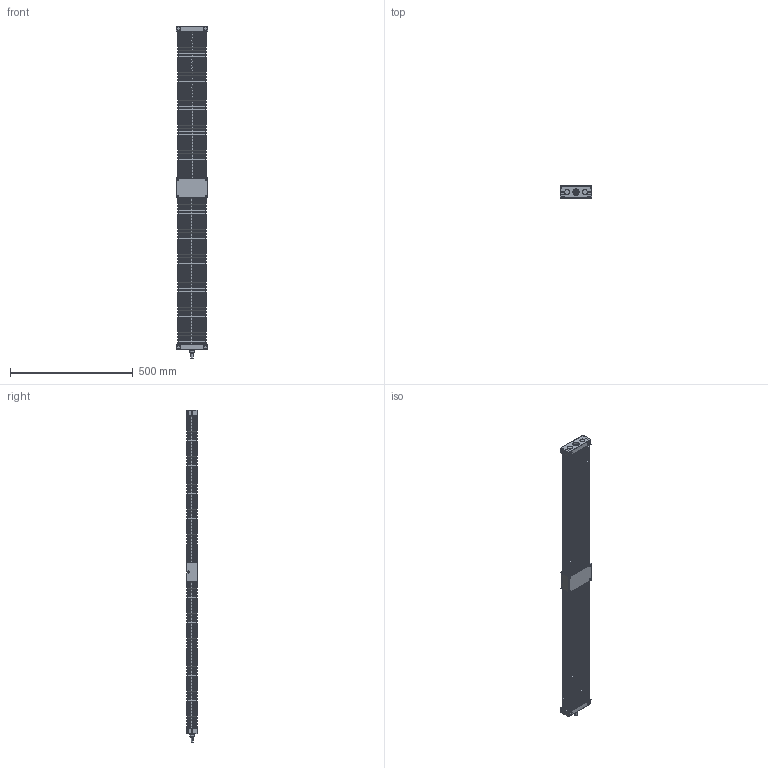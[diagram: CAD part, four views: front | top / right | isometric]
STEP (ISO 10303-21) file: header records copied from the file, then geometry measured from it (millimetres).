
FILE_DESCRIPTION (( 'STEP AP214' ), '1' );
FILE_NAME ('TKC2010B-800H0C-Ä£×é.step', '2025-08-25T08:40:32', ( '' ), ( '' ), 'SwSTEP 2.0', 'SolidWorks 2024', '' );
FILE_SCHEMA (( 'AUTOMOTIVE_DESIGN' ));
Length unit declared in the file: millimetre
Products named in the file (4): TKC2010B-800H0C-模组; TKC20-800-01; TKC20-02; TKC20-800-03
Assembly tree (4 placements, depth 2):
  TKC2010B-800H0C-模组
    TKC20-02
    TKC20-800-01
    TKC20-800-03  x2
Bounding box: 130 x 48 x 1353.5 mm (x, y, z)
Volume: 4332514 mm3; surface area: 1409480.2 mm2
Topology: 14 solids, 14 shells, 3356 faces, 7303 edges, 4020 vertices
Faces by surface type: plane 2697, cylinder 584, cone 36, torus 28, bspline 11
Entity records: 81340 total; most frequent: CARTESIAN_POINT 35446, ORIENTED_EDGE 9638, DIRECTION 8841, EDGE_CURVE 4819, VECTOR 3561, LINE 3561, VERTEX_POINT 2784, AXIS2_PLACEMENT_3D 2640
